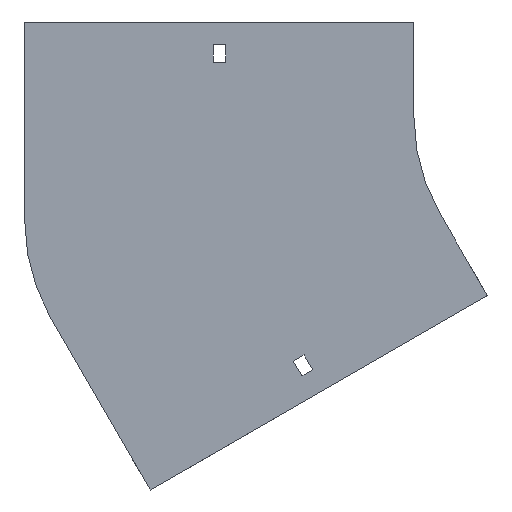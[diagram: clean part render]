
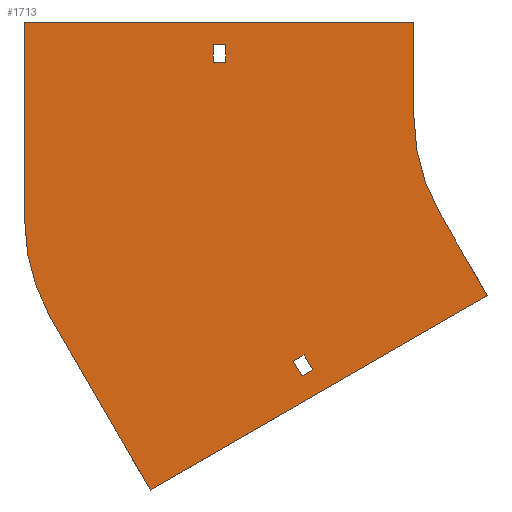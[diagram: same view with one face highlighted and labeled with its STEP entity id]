
A CAD part, front view. The second image highlights one B-rep face of the part: STEP entity #1713.
In plain terms, the highlighted planar face has unit normal (0, -1, 0).
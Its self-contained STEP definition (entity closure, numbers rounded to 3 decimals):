
#51 = CARTESIAN_POINT ( 'NONE',  ( -158.752, 0., -135.534 ) ) ;
#67 = VERTEX_POINT ( 'NONE', #256 ) ;
#93 = CARTESIAN_POINT ( 'NONE',  ( -100., 0., 50. ) ) ;
#116 = FACE_BOUND ( 'NONE', #423, .T. ) ;
#129 = EDGE_CURVE ( 'NONE', #517, #1612, #863, .T. ) ;
#136 = VECTOR ( 'NONE', #1917, 1000. ) ;
#151 = VERTEX_POINT ( 'NONE', #1920 ) ;
#156 = VERTEX_POINT ( 'NONE', #944 ) ;
#166 = VECTOR ( 'NONE', #290, 1000. ) ;
#173 = ORIENTED_EDGE ( 'NONE', *, *, #223, .F. ) ;
#182 = EDGE_CURVE ( 'NONE', #151, #183, #1822, .T. ) ;
#183 = VERTEX_POINT ( 'NONE', #1530 ) ;
#203 = VECTOR ( 'NONE', #507, 1000. ) ;
#223 = EDGE_CURVE ( 'NONE', #485, #1319, #1224, .T. ) ;
#224 = CARTESIAN_POINT ( 'NONE',  ( -198.75, 0., 29. ) ) ;
#227 = VERTEX_POINT ( 'NONE', #327 ) ;
#247 = EDGE_CURVE ( 'NONE', #183, #67, #753, .T. ) ;
#255 = ORIENTED_EDGE ( 'NONE', *, *, #937, .F. ) ;
#256 = CARTESIAN_POINT ( 'NONE',  ( -205.25, 0., 38. ) ) ;
#268 = ORIENTED_EDGE ( 'NONE', *, *, #682, .F. ) ;
#276 = DIRECTION ( 'NONE',  ( 1., 0., 0. ) ) ;
#285 = LINE ( 'NONE', #890, #166 ) ;
#290 = DIRECTION ( 'NONE',  ( -0.866, 0., -0.5 ) ) ;
#315 = CARTESIAN_POINT ( 'NONE',  ( -238.272, 0., -195.301 ) ) ;
#327 = CARTESIAN_POINT ( 'NONE',  ( -100., 0., 0. ) ) ;
#328 = VECTOR ( 'NONE', #1377, 1000. ) ;
#365 = EDGE_CURVE ( 'NONE', #368, #151, #966, .T. ) ;
#368 = VERTEX_POINT ( 'NONE', #1432 ) ;
#396 = CARTESIAN_POINT ( 'NONE',  ( -163.252, 0., -127.74 ) ) ;
#403 = ORIENTED_EDGE ( 'NONE', *, *, #365, .T. ) ;
#423 = EDGE_LOOP ( 'NONE', ( #631, #1684, #1493, #1791 ) ) ;
#440 = CARTESIAN_POINT ( 'NONE',  ( -304., 0., -54.662 ) ) ;
#455 = CARTESIAN_POINT ( 'NONE',  ( -204., 0., -54.662 ) ) ;
#485 = VERTEX_POINT ( 'NONE', #1927 ) ;
#507 = DIRECTION ( 'NONE',  ( 0., 0., -1. ) ) ;
#517 = VERTEX_POINT ( 'NONE', #881 ) ;
#532 = EDGE_CURVE ( 'NONE', #156, #1274, #1194, .T. ) ;
#534 = DIRECTION ( 'NONE',  ( 0., 0., -1. ) ) ;
#551 = ORIENTED_EDGE ( 'NONE', *, *, #247, .T. ) ;
#566 = ORIENTED_EDGE ( 'NONE', *, *, #1906, .F. ) ;
#576 = CIRCLE ( 'NONE', #1682, 100. ) ;
#593 = DIRECTION ( 'NONE',  ( 0., 0., 1. ) ) ;
#598 = DIRECTION ( 'NONE',  ( 0., 1., 0. ) ) ;
#619 = CARTESIAN_POINT ( 'NONE',  ( 0., 0., 0. ) ) ;
#623 = LINE ( 'NONE', #51, #1619 ) ;
#626 = CARTESIAN_POINT ( 'NONE',  ( -158.752, 0., -135.534 ) ) ;
#629 = DIRECTION ( 'NONE',  ( -1., 0., 0. ) ) ;
#631 = ORIENTED_EDGE ( 'NONE', *, *, #1041, .F. ) ;
#638 = VECTOR ( 'NONE', #1943, 1000. ) ;
#645 = DIRECTION ( 'NONE',  ( -0.5, 0., 0.866 ) ) ;
#648 = LINE ( 'NONE', #1555, #1242 ) ;
#653 = EDGE_CURVE ( 'NONE', #882, #1716, #576, .T. ) ;
#682 = EDGE_CURVE ( 'NONE', #227, #485, #1279, .T. ) ;
#711 = CARTESIAN_POINT ( 'NONE',  ( -100., 0., 50. ) ) ;
#723 = LINE ( 'NONE', #1322, #136 ) ;
#753 = LINE ( 'NONE', #1347, #638 ) ;
#786 = ORIENTED_EDGE ( 'NONE', *, *, #182, .T. ) ;
#822 = CARTESIAN_POINT ( 'NONE',  ( -205.25, 0., 38. ) ) ;
#828 = VERTEX_POINT ( 'NONE', #1351 ) ;
#863 = LINE ( 'NONE', #1625, #902 ) ;
#876 = CARTESIAN_POINT ( 'NONE',  ( -61.603, 0., -93.301 ) ) ;
#881 = CARTESIAN_POINT ( 'NONE',  ( -304., 0., 50. ) ) ;
#882 = VERTEX_POINT ( 'NONE', #1328 ) ;
#890 = CARTESIAN_POINT ( 'NONE',  ( -163.252, 0., -127.74 ) ) ;
#902 = VECTOR ( 'NONE', #276, 1000. ) ;
#937 = EDGE_CURVE ( 'NONE', #1716, #517, #723, .T. ) ;
#944 = CARTESIAN_POINT ( 'NONE',  ( -163.252, 0., -127.74 ) ) ;
#966 = LINE ( 'NONE', #224, #1154 ) ;
#979 = ORIENTED_EDGE ( 'NONE', *, *, #1670, .F. ) ;
#987 = EDGE_CURVE ( 'NONE', #1215, #1349, #648, .T. ) ;
#996 = VECTOR ( 'NONE', #1467, 1000. ) ;
#1018 = FACE_OUTER_BOUND ( 'NONE', #1227, .T. ) ;
#1041 = EDGE_CURVE ( 'NONE', #1274, #1215, #623, .T. ) ;
#1042 = DIRECTION ( 'NONE',  ( 0.5, 0., -0.866 ) ) ;
#1059 = CARTESIAN_POINT ( 'NONE',  ( -86.603, 0., -50. ) ) ;
#1082 = VECTOR ( 'NONE', #1042, 1000. ) ;
#1096 = LINE ( 'NONE', #315, #1310 ) ;
#1109 = ORIENTED_EDGE ( 'NONE', *, *, #1146, .F. ) ;
#1146 = EDGE_CURVE ( 'NONE', #1612, #227, #1284, .T. ) ;
#1154 = VECTOR ( 'NONE', #534, 1000. ) ;
#1179 = CARTESIAN_POINT ( 'NONE',  ( 0., 0., 0. ) ) ;
#1194 = LINE ( 'NONE', #396, #1082 ) ;
#1215 = VERTEX_POINT ( 'NONE', #1763 ) ;
#1224 = LINE ( 'NONE', #1059, #328 ) ;
#1227 = EDGE_LOOP ( 'NONE', ( #1677, #255, #1574, #566, #979, #173, #268, #1109 ) ) ;
#1228 = DIRECTION ( 'NONE',  ( 0.866, 0., 0.5 ) ) ;
#1234 = CARTESIAN_POINT ( 'NONE',  ( -205.25, 0., 29. ) ) ;
#1242 = VECTOR ( 'NONE', #1381, 1000. ) ;
#1274 = VERTEX_POINT ( 'NONE', #626 ) ;
#1279 = CIRCLE ( 'NONE', #1750, 100. ) ;
#1284 = LINE ( 'NONE', #93, #203 ) ;
#1310 = VECTOR ( 'NONE', #645, 1000. ) ;
#1319 = VERTEX_POINT ( 'NONE', #1547 ) ;
#1320 = FACE_BOUND ( 'NONE', #1476, .T. ) ;
#1322 = CARTESIAN_POINT ( 'NONE',  ( -304., 0., -54.662 ) ) ;
#1328 = CARTESIAN_POINT ( 'NONE',  ( -290.603, 0., -104.662 ) ) ;
#1347 = CARTESIAN_POINT ( 'NONE',  ( -205.25, 0., 29. ) ) ;
#1349 = VERTEX_POINT ( 'NONE', #1538 ) ;
#1351 = CARTESIAN_POINT ( 'NONE',  ( -238.272, 0., -195.301 ) ) ;
#1377 = DIRECTION ( 'NONE',  ( 0.5, 0., -0.866 ) ) ;
#1381 = DIRECTION ( 'NONE',  ( -0.5, 0., 0.866 ) ) ;
#1432 = CARTESIAN_POINT ( 'NONE',  ( -198.75, 0., 38. ) ) ;
#1457 = LINE ( 'NONE', #822, #1559 ) ;
#1467 = DIRECTION ( 'NONE',  ( -0.866, 0., -0.5 ) ) ;
#1476 = EDGE_LOOP ( 'NONE', ( #551, #1904, #403, #786 ) ) ;
#1493 = ORIENTED_EDGE ( 'NONE', *, *, #1764, .F. ) ;
#1530 = CARTESIAN_POINT ( 'NONE',  ( -205.25, 0., 29. ) ) ;
#1538 = CARTESIAN_POINT ( 'NONE',  ( -157.623, 0., -124.49 ) ) ;
#1547 = CARTESIAN_POINT ( 'NONE',  ( -61.603, 0., -93.301 ) ) ;
#1555 = CARTESIAN_POINT ( 'NONE',  ( -157.623, 0., -124.49 ) ) ;
#1559 = VECTOR ( 'NONE', #1599, 1000. ) ;
#1574 = ORIENTED_EDGE ( 'NONE', *, *, #653, .F. ) ;
#1596 = EDGE_CURVE ( 'NONE', #67, #368, #1457, .T. ) ;
#1599 = DIRECTION ( 'NONE',  ( 1., 0., 0. ) ) ;
#1612 = VERTEX_POINT ( 'NONE', #711 ) ;
#1619 = VECTOR ( 'NONE', #1228, 1000. ) ;
#1625 = CARTESIAN_POINT ( 'NONE',  ( -304., 0., 50. ) ) ;
#1670 = EDGE_CURVE ( 'NONE', #1319, #828, #1939, .T. ) ;
#1677 = ORIENTED_EDGE ( 'NONE', *, *, #129, .F. ) ;
#1682 = AXIS2_PLACEMENT_3D ( 'NONE', #455, #598, #593 ) ;
#1684 = ORIENTED_EDGE ( 'NONE', *, *, #532, .F. ) ;
#1713 = ADVANCED_FACE ( 'NONE', ( #1320, #1018, #116 ), #1781, .T. ) ;
#1715 = AXIS2_PLACEMENT_3D ( 'NONE', #1179, #1770, #1797 ) ;
#1716 = VERTEX_POINT ( 'NONE', #440 ) ;
#1750 = AXIS2_PLACEMENT_3D ( 'NONE', #619, #1942, #1801 ) ;
#1763 = CARTESIAN_POINT ( 'NONE',  ( -153.123, 0., -132.284 ) ) ;
#1764 = EDGE_CURVE ( 'NONE', #1349, #156, #285, .T. ) ;
#1770 = DIRECTION ( 'NONE',  ( 0., -1., 0. ) ) ;
#1781 = PLANE ( 'NONE',  #1715 ) ;
#1791 = ORIENTED_EDGE ( 'NONE', *, *, #987, .F. ) ;
#1797 = DIRECTION ( 'NONE',  ( 0., 0., -1. ) ) ;
#1801 = DIRECTION ( 'NONE',  ( 0., 0., -1. ) ) ;
#1822 = LINE ( 'NONE', #1234, #1841 ) ;
#1841 = VECTOR ( 'NONE', #629, 1000. ) ;
#1904 = ORIENTED_EDGE ( 'NONE', *, *, #1596, .T. ) ;
#1906 = EDGE_CURVE ( 'NONE', #828, #882, #1096, .T. ) ;
#1917 = DIRECTION ( 'NONE',  ( 0., 0., 1. ) ) ;
#1920 = CARTESIAN_POINT ( 'NONE',  ( -198.75, 0., 29. ) ) ;
#1927 = CARTESIAN_POINT ( 'NONE',  ( -86.603, 0., -50. ) ) ;
#1939 = LINE ( 'NONE', #876, #996 ) ;
#1942 = DIRECTION ( 'NONE',  ( 0., -1., 0. ) ) ;
#1943 = DIRECTION ( 'NONE',  ( 0., 0., 1. ) ) ;
